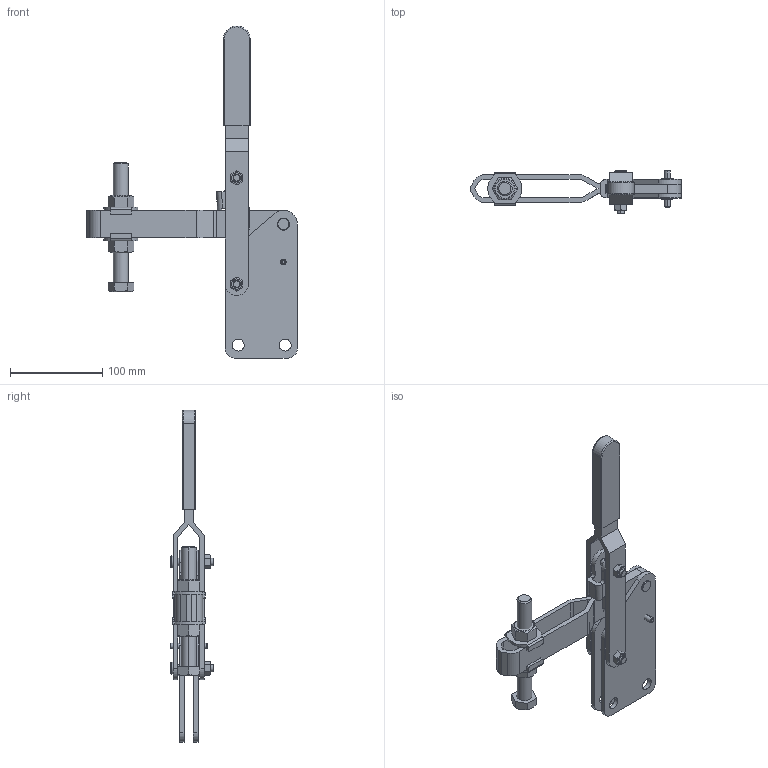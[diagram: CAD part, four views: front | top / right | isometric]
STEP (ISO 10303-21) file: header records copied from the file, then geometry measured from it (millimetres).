
FILE_DESCRIPTION(('CATIA V5 STEP Exchange'),'2;1');
FILE_NAME('D:\Model\toggle\toggle_standard\KJF_055_11S.stp','2005-06-24T05:18:02+00:00',('none'),('none'),'CATIA Version 5 Release 11 (IN-9)','CATIA V5 STEP AP203',' none');
FILE_SCHEMA(('CONFIG_CONTROL_DESIGN'));
Length unit declared in the file: millimetre
Products named in the file (1): Part1
Bounding box: 228 x 47 x 359.5 mm (x, y, z)
Volume: 343903 mm3; surface area: 142775.9 mm2
Topology: 17 solids, 17 shells, 315 faces, 781 edges, 508 vertices
Faces by surface type: plane 161, cylinder 114, cone 28, torus 10, bspline 2
Entity records: 9257 total; most frequent: CARTESIAN_POINT 2103, ORIENTED_EDGE 1562, DIRECTION 1205, EDGE_CURVE 781, AXIS2_PLACEMENT_3D 524, VERTEX_POINT 508, VECTOR 451, LINE 451
